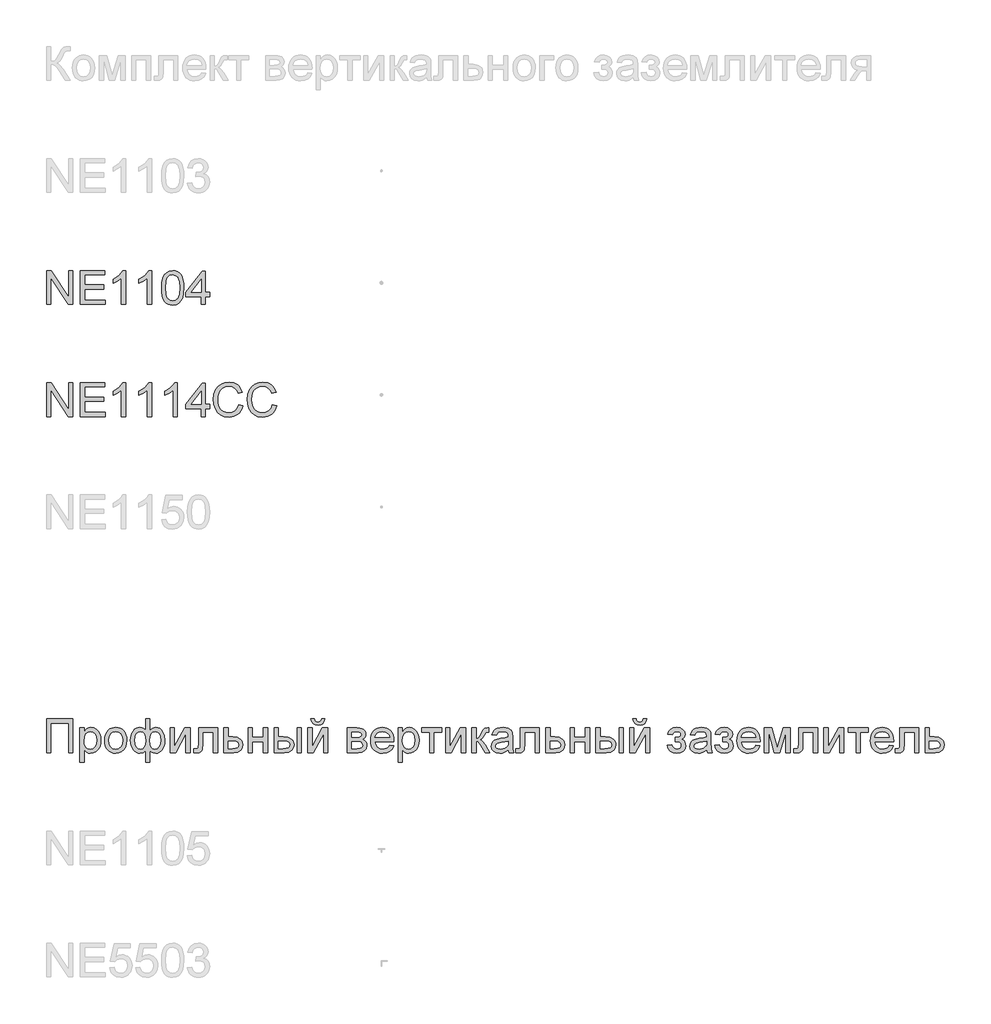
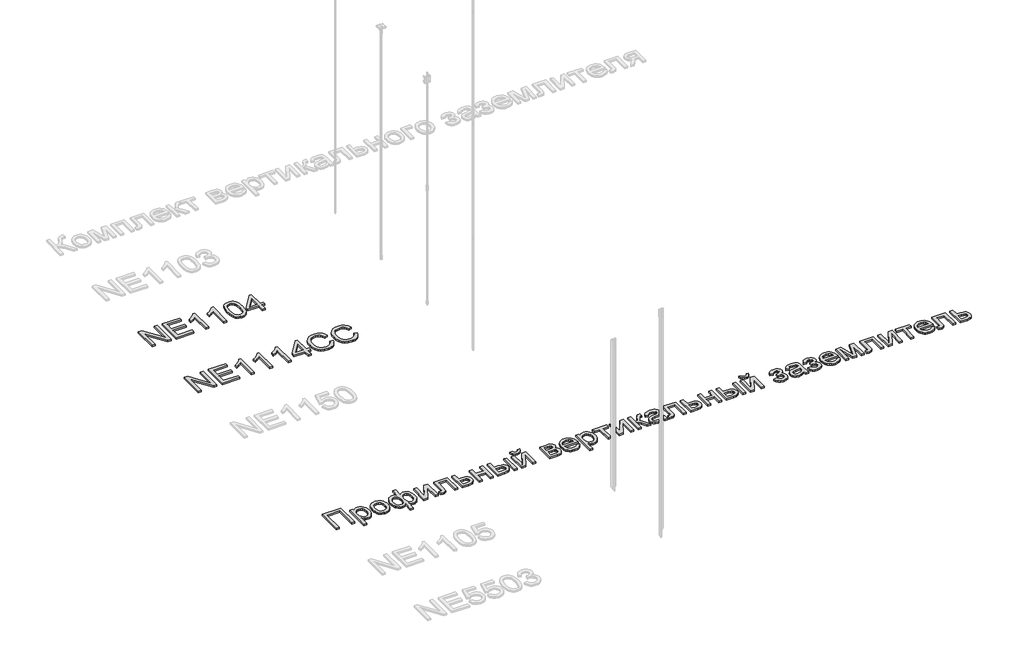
# One storey, part 73 of 124: 3 proxies.
"""IFC4 building model written with IfcOpenShell, lengths in millimetres."""

from ifc_helpers import new_model, si_unit, origin, origin_with_axes, place, context, project, spatial, polyline, outline, extrude, element, save

model = new_model("IFC4")

# Units and contexts
model_context = context("Model", 3, world=origin())
ifc_project = project(units=[si_unit("LENGTHUNIT", "METRE", prefix="MILLI")], contexts=[model_context])

# Site, building, storey
site = spatial("IfcSite", under=ifc_project)
building = spatial("IfcBuilding", under=site)
storey = spatial("IfcBuildingStorey", under=building, Name="Этаж 01", Elevation=0.0)

# Proxies
placement = place(None, origin())
element("IfcBuildingElementProxy", 1, Name="300", ObjectType="300", at=placement, inside=storey, context=model_context, shape_type="SweptSolid", body=[
    extrude(outline(polyline([(32939.8675381, -59074.498362), (32939.8675381, -58773.1294316), (32980.1874048, -58773.1294316), (33137.6408988, -59011.8848464), (33137.6408988, -58773.1294316), (33175.3120151, -58773.1294316), (33175.3120151, -59074.498362), (33134.9921484, -59074.498362), (32977.5386545, -58835.6693707), (32977.5386545, -59074.498362), (32939.8675381, -59074.498362)])), origin_with_axes(), (0.0, 0.0, 1.0), 20.0),
    extrude(outline(polyline([(33241.2364686, -59074.498362), (33241.2364686, -58773.1294316), (33457.8453874, -58773.1294316), (33457.8453874, -58810.8005479), (33278.9075849, -58810.8005479), (33278.9075849, -58900.2694491), (33448.4276083, -58900.2694491), (33448.4276083, -58937.9405654), (33278.9075849, -58937.9405654), (33278.9075849, -59036.8272457), (33462.5542769, -59036.8272457), (33462.5542769, -59074.498362), (33241.2364686, -59074.498362)])), origin_with_axes(), (0.0, 0.0, 1.0), 20.0),
    extrude(outline(polyline([(33646.2009689, -59074.498362), (33608.5298526, -59074.498362), (33608.5298526, -58839.6424963), (33572.8452991, -58865.0631421), (33533.18762, -58884.0826413), (33533.18762, -58848.4716642), (33562.7745294, -58832.3768269), (33588.4067074, -58813.228569), (33608.612626, -58792.8663006), (33621.9207572, -58773.1294316), (33646.2009689, -58773.1294316), (33646.2009689, -59074.498362)])), origin_with_axes(), (0.0, 0.0, 1.0), 20.0),
    extrude(outline(polyline([(33876.9365563, -59074.498362), (33839.26544, -59074.498362), (33839.26544, -58839.6424963), (33803.5808864, -58865.0631421), (33763.9232073, -58884.0826413), (33763.9232073, -58848.4716642), (33793.5101168, -58832.3768269), (33819.1422948, -58813.228569), (33839.3482134, -58792.8663006), (33852.6563446, -58773.1294316), (33876.9365563, -58773.1294316), (33876.9365563, -59074.498362)])), origin_with_axes(), (0.0, 0.0, 1.0), 20.0),
    extrude(outline(polyline([(33966.4054575, -58926.2419179), (33969.1737695, -58878.0033913), (33977.4787055, -58839.5321317), (33991.2374922, -58810.2395278), (34010.3673559, -58789.5369685), (34035.0062525, -58777.2313158), (34065.2921378, -58773.1294316), (34088.5054917, -58775.5574527), (34109.2908244, -58782.8415162), (34126.6732487, -58794.6965135), (34139.6778772, -58810.8373361), (34149.5003265, -58831.1260281), (34157.336213, -58855.4246339), (34162.4681668, -58886.2807362), (34164.1788181, -58926.2419179), (34161.4380972, -58974.2045331), (34153.2159346, -59012.5838222), (34139.5399215, -59041.9040172), (34120.4376489, -59062.68935), (34095.7435699, -59075.0777761), (34065.2921378, -59079.2072515), (34044.5435933, -59077.4138268), (34026.1494935, -59072.0335526), (34010.1098385, -59063.066429), (33996.4246283, -59050.5124559), (33983.2912411, -59027.8187353), (33973.9102502, -58999.5424055), (33968.2816557, -58965.6834664), (33966.4054575, -58926.2419179)]), holes=[polyline([(34004.0765738, -58926.1683415), (34008.4911577, -58985.4249339), (34014.0093877, -59005.6929326), (34021.7349096, -59019.7207329), (34041.4533845, -59036.0822847), (34065.2921378, -59041.5361352), (34089.1308911, -59036.0638906), (34108.849366, -59019.6471565), (34116.5748879, -59005.5963636), (34122.0931178, -58985.3329634), (34126.5077018, -58926.1683415), (34122.2402706, -58868.2453214), (34116.9059817, -58848.0440013), (34109.4379772, -58833.682808), (34089.7562905, -58816.5211129), (34064.8506794, -58810.8005479), (34041.2694435, -58815.8405312), (34022.3235208, -58830.9604812), (34014.3404815, -58846.595466), (34008.6383105, -58867.6751043), (34004.0765738, -58926.1683415)])]), origin_with_axes(), (0.0, 0.0, 1.0), 20.0),
    extrude(outline(polyline([(34319.5721729, -59074.498362), (34319.5721729, -59003.8650189), (34183.0143763, -59003.8650189), (34183.0143763, -58966.1939026), (34328.9899519, -58777.8383211), (34357.2432892, -58777.8383211), (34357.2432892, -58966.1939026), (34394.9144055, -58966.1939026), (34394.9144055, -59003.8650189), (34357.2432892, -59003.8650189), (34357.2432892, -59074.498362), (34319.5721729, -59074.498362)]), holes=[polyline([(34319.5721729, -58966.1939026), (34319.5721729, -58849.7960393), (34229.3675076, -58966.1939026), (34319.5721729, -58966.1939026)])]), origin_with_axes(), (0.0, 0.0, 1.0), 20.0),
])
element("IfcBuildingElementProxy", 2, Name="300", ObjectType="300", at=placement, inside=storey, context=model_context, shape_type="SweptSolid", body=[
    extrude(outline(polyline([(32939.8675381, -60074.498362), (32939.8675381, -59773.1294316), (32980.1874048, -59773.1294316), (33137.6408988, -60011.8848464), (33137.6408988, -59773.1294316), (33175.3120151, -59773.1294316), (33175.3120151, -60074.498362), (33134.9921484, -60074.498362), (32977.5386545, -59835.6693707), (32977.5386545, -60074.498362), (32939.8675381, -60074.498362)])), origin_with_axes(), (0.0, 0.0, 1.0), 20.0),
    extrude(outline(polyline([(33241.2364686, -60074.498362), (33241.2364686, -59773.1294316), (33457.8453874, -59773.1294316), (33457.8453874, -59810.8005479), (33278.9075849, -59810.8005479), (33278.9075849, -59900.2694491), (33448.4276083, -59900.2694491), (33448.4276083, -59937.9405654), (33278.9075849, -59937.9405654), (33278.9075849, -60036.8272457), (33462.5542769, -60036.8272457), (33462.5542769, -60074.498362), (33241.2364686, -60074.498362)])), origin_with_axes(), (0.0, 0.0, 1.0), 20.0),
    extrude(outline(polyline([(33646.2009689, -60074.498362), (33608.5298526, -60074.498362), (33608.5298526, -59839.6424963), (33572.8452991, -59865.0631421), (33533.18762, -59884.0826413), (33533.18762, -59848.4716642), (33562.7745294, -59832.3768269), (33588.4067074, -59813.228569), (33608.612626, -59792.8663006), (33621.9207572, -59773.1294316), (33646.2009689, -59773.1294316), (33646.2009689, -60074.498362)])), origin_with_axes(), (0.0, 0.0, 1.0), 20.0),
    extrude(outline(polyline([(33876.9365563, -60074.498362), (33839.26544, -60074.498362), (33839.26544, -59839.6424963), (33803.5808864, -59865.0631421), (33763.9232073, -59884.0826413), (33763.9232073, -59848.4716642), (33793.5101168, -59832.3768269), (33819.1422948, -59813.228569), (33839.3482134, -59792.8663006), (33852.6563446, -59773.1294316), (33876.9365563, -59773.1294316), (33876.9365563, -60074.498362)])), origin_with_axes(), (0.0, 0.0, 1.0), 20.0),
    extrude(outline(polyline([(34107.6721436, -60074.498362), (34070.0010273, -60074.498362), (34070.0010273, -59839.6424963), (34034.3164738, -59865.0631421), (33994.6587947, -59884.0826413), (33994.6587947, -59848.4716642), (34024.2457042, -59832.3768269), (34049.8778822, -59813.228569), (34070.0838008, -59792.8663006), (34083.391932, -59773.1294316), (34107.6721436, -59773.1294316), (34107.6721436, -60074.498362)])), origin_with_axes(), (0.0, 0.0, 1.0), 20.0),
    extrude(outline(polyline([(34319.5721729, -60074.498362), (34319.5721729, -60003.8650189), (34183.0143763, -60003.8650189), (34183.0143763, -59966.1939026), (34328.9899519, -59777.8383211), (34357.2432892, -59777.8383211), (34357.2432892, -59966.1939026), (34394.9144055, -59966.1939026), (34394.9144055, -60003.8650189), (34357.2432892, -60003.8650189), (34357.2432892, -60074.498362), (34319.5721729, -60074.498362)]), holes=[polyline([(34319.5721729, -59966.1939026), (34319.5721729, -59849.7960393), (34229.3675076, -59966.1939026), (34319.5721729, -59966.1939026)])]), origin_with_axes(), (0.0, 0.0, 1.0), 20.0),
    extrude(outline(polyline([(34653.9033301, -59967.371125), (34691.5744464, -59977.0832097), (34684.1202375, -60000.510395), (34674.1920221, -60020.9807288), (34661.7898003, -60038.494211), (34646.9135722, -60053.0508417), (34629.8990299, -60064.494271), (34611.0818658, -60072.6681491), (34590.46208, -60077.5724759), (34568.0396724, -60079.2072515), (34524.3444884, -60074.2592387), (34489.6440192, -60059.4152002), (34463.046151, -60035.1901708), (34443.6587698, -60002.0991854), (34431.8221666, -59963.1956644), (34427.8766322, -59921.5330284), (34432.3372014, -59877.5895241), (34445.718909, -59839.6424963), (34467.3227792, -59808.8967585), (34496.4498361, -59786.5571244), (34530.9939555, -59772.9546876), (34568.8490128, -59768.420542), (34610.1529638, -59774.2882598), (34628.1217, -59781.6229071), (34644.30161, -59791.8914133), (34658.4259794, -59804.8224654), (34670.2280936, -59820.1447505), (34686.8655568, -59857.9630196), (34649.1944405, -59866.9393403), (34636.1346297, -59839.4677523), (34618.2923529, -59820.6229971), (34595.446881, -59809.724493), (34567.3774848, -59806.0916583), (34535.0222633, -59810.1199662), (34508.4427892, -59822.2048897), (34488.2736588, -59841.0772361), (34475.1494686, -59865.4678123), (34467.9481786, -59893.0405679), (34465.5477485, -59921.459452), (34468.389637, -59956.2610888), (34476.9153022, -59986.353836), (34491.446641, -60010.5880624), (34512.3055501, -60027.8141368), (34537.3123288, -60038.1056356), (34564.2872761, -60041.5361352), (34595.7319896, -60036.8640339), (34621.9343847, -60022.8477299), (34641.717239, -59999.634376), (34653.9033301, -59967.371125)])), origin_with_axes(), (0.0, 0.0, 1.0), 20.0),
    extrude(outline(polyline([(34955.2722605, -59967.371125), (34992.9433768, -59977.0832097), (34985.4891679, -60000.510395), (34975.5609526, -60020.9807288), (34963.1587308, -60038.494211), (34948.2825026, -60053.0508417), (34931.2679603, -60064.494271), (34912.4507963, -60072.6681491), (34891.8310105, -60077.5724759), (34869.4086029, -60079.2072515), (34825.7134189, -60074.2592387), (34791.0129497, -60059.4152002), (34764.4150814, -60035.1901708), (34745.0277003, -60002.0991854), (34733.1910971, -59963.1956644), (34729.2455627, -59921.5330284), (34733.7061319, -59877.5895241), (34747.0878395, -59839.6424963), (34768.6917096, -59808.8967585), (34797.8187666, -59786.5571244), (34832.3628859, -59772.9546876), (34870.2179432, -59768.420542), (34911.5218942, -59774.2882598), (34929.4906305, -59781.6229071), (34945.6705405, -59791.8914133), (34959.7949098, -59804.8224654), (34971.5970241, -59820.1447505), (34988.2344873, -59857.9630196), (34950.563371, -59866.9393403), (34937.5035602, -59839.4677523), (34919.6612834, -59820.6229971), (34896.8158115, -59809.724493), (34868.7464153, -59806.0916583), (34836.3911938, -59810.1199662), (34809.8117196, -59822.2048897), (34789.6425892, -59841.0772361), (34776.5183991, -59865.4678123), (34769.317109, -59893.0405679), (34766.916679, -59921.459452), (34769.7585674, -59956.2610888), (34778.2842326, -59986.353836), (34792.8155715, -60010.5880624), (34813.6744806, -60027.8141368), (34838.6812592, -60038.1056356), (34865.6562065, -60041.5361352), (34897.10092, -60036.8640339), (34923.3033151, -60022.8477299), (34943.0861694, -59999.634376), (34955.2722605, -59967.371125)])), origin_with_axes(), (0.0, 0.0, 1.0), 20.0),
])
element("IfcBuildingElementProxy", 3, Name="300", ObjectType="300", at=placement, inside=storey, context=model_context, shape_type="SweptSolid", body=[
    extrude(outline(polyline([(32939.8675381, -62773.1294316), (33175.3120151, -62773.1294316), (33175.3120151, -63074.498362), (33137.6408988, -63074.498362), (33137.6408988, -62810.8005479), (32977.5386545, -62810.8005479), (32977.5386545, -63074.498362), (32939.8675381, -63074.498362), (32939.8675381, -62773.1294316)])), origin_with_axes(), (0.0, 0.0, 1.0), 20.0),
    extrude(outline(polyline([(33236.5275791, -63159.2583737), (33236.5275791, -62853.1805537), (33274.1986954, -62853.1805537), (33274.1986954, -62890.115906), (33286.485954, -62871.8965502), (33300.2447406, -62858.8827246), (33316.2843956, -62851.0744293), (33335.4142594, -62848.4716642), (33360.8900875, -62852.1136959), (33383.1653423, -62863.0397912), (33401.3019247, -62880.5877623), (33414.3617355, -62904.0954218), (33422.2528043, -62931.8521184), (33424.8831606, -62962.1472007), (33421.9125135, -62994.3644664), (33413.0005721, -63023.1788237), (33398.4324451, -63047.1279416), (33378.493241, -63064.7494891), (33355.2706901, -63075.5928109), (33330.8525226, -63079.2072515), (33313.5344777, -63076.7884274), (33298.0742369, -63069.5319551), (33284.8396821, -63058.5782687), (33274.1986954, -63045.0678024), (33274.1986954, -63159.2583737), (33236.5275791, -63159.2583737)]), holes=[polyline([(33274.1986954, -62965.6052914), (33278.2729885, -62999.3768586), (33290.4958678, -63022.9948827), (33308.5312826, -63036.9008221), (33330.0431822, -63041.5361352), (33351.9045698, -63036.7352752), (33370.3998371, -63022.3326951), (33383.0089925, -62997.8501483), (33387.2120443, -62962.8093883), (33383.11016, -62929.2217621), (33370.8045073, -62905.2726442), (33352.7966836, -62890.9252464), (33331.5882866, -62886.1427805), (33310.2971161, -62891.2287491), (33291.5995137, -62906.4866548), (33278.5489, -62931.4382511), (33274.1986954, -62965.6052914)])]), origin_with_axes(), (0.0, 0.0, 1.0), 20.0),
    extrude(outline(polyline([(33457.8453874, -62963.8394579), (33459.8825339, -62935.1768519), (33465.9939736, -62910.4781745), (33476.1797063, -62889.7434255), (33490.4397321, -62872.972605), (33504.796327, -62862.2534434), (33520.6428439, -62854.5968994), (33537.979283, -62850.002973), (33556.8056441, -62848.4716642), (33577.5886775, -62850.336366), (33596.3805497, -62855.9304716), (33613.1812606, -62865.2539809), (33627.9908101, -62878.306894), (33640.0780329, -62894.6477523), (33648.7117635, -62913.8350977), (33653.8920019, -62935.8689299), (33655.618748, -62960.7492491), (33652.5653274, -62998.8066415), (33643.4050657, -63027.7773486), (33628.4046774, -63049.4731893), (33607.8308768, -63065.7059823), (33583.3943153, -63075.8319342), (33556.8056441, -63079.2072515), (33535.7191079, -63077.3494475), (33516.7524918, -63071.7760352), (33499.9057957, -63062.4870149), (33485.1790196, -63049.4823863), (33473.2205555, -63032.9828788), (33464.6787954, -63013.2092216), (33459.5537394, -62990.1614146), (33457.8453874, -62963.8394579)]), holes=[polyline([(33495.5165037, -62963.7658815), (33499.8759053, -62997.8593454), (33512.9541102, -63022.1487541), (33532.635797, -63036.6892899), (33556.8056441, -63041.5361352), (33580.8651265, -63036.6616988), (33600.5100251, -63022.0383895), (33613.58823, -62997.427084), (33617.9476317, -62962.5886591), (33613.5606389, -62929.4884766), (33600.3996605, -62905.5301616), (33580.7271708, -62890.9896258), (33556.8056441, -62886.1427805), (33532.635797, -62890.9712317), (33512.9541102, -62905.4565852), (33499.8759053, -62929.6908117), (33495.5165037, -62963.7658815)])]), origin_with_axes(), (0.0, 0.0, 1.0), 20.0),
    extrude(outline(polyline([(33825.1387713, -62773.1294316), (33862.8098876, -62773.1294316), (33862.8098876, -62874.444133), (33874.2418206, -62863.0122), (33886.7590055, -62854.9095991), (33900.30626, -62850.0811479), (33914.8284018, -62848.4716642), (33932.2683076, -62850.5180078), (33947.7998256, -62856.6570386), (33961.4229557, -62866.8887565), (33973.137698, -62881.2131617), (33982.5531778, -62898.6415713), (33989.2785205, -62918.1853023), (33994.6587947, -62963.6187287), (33993.2102594, -62988.2737201), (33988.8646533, -63010.4409096), (33981.6219765, -63030.1202971), (33971.482229, -63047.3118826), (33959.1903719, -63061.2661065), (33945.4913661, -63071.2334093), (33930.3852116, -63077.213791), (33913.8719086, -63079.2072515), (33890.8424957, -63075.5284316), (33877.9850199, -63068.6674324), (33862.8098876, -63055.4420747), (33862.8098876, -63159.2583737), (33825.1387713, -63159.2583737), (33825.1387713, -63055.4420747), (33801.0792889, -63073.2475632), (33772.6052224, -63079.2072515), (33756.2896559, -63077.3034622), (33741.0409472, -63071.5920942), (33726.8590963, -63062.0731476), (33713.7441032, -63048.7466223), (33702.7352345, -63031.8746343), (33694.8717569, -63011.7192995), (33690.1536703, -62988.2806179), (33688.5809747, -62961.5585895), (33694.2739486, -62917.394356), (33701.390166, -62898.2231055), (33711.3528702, -62880.9924325), (33723.7206031, -62866.7645964), (33738.051906, -62856.6018563), (33754.3467792, -62850.5042122), (33772.6052224, -62848.4716642), (33787.9550987, -62850.0811479), (33801.7782646, -62854.9095991), (33814.1482967, -62863.0122), (33825.1387713, -62874.444133), (33825.1387713, -62773.1294316)]), holes=[polyline([(33862.5891585, -62964.5016454), (33865.7253525, -63002.6418113), (33875.1339345, -63025.827574), (33889.2698002, -63037.6089949), (33906.5878451, -63041.5361352), (33925.9476351, -63036.707684), (33942.2356104, -63022.2223305), (33953.2996614, -62997.5650398), (33956.9876784, -62962.2207771), (33953.58477, -62928.7067273), (33943.3760446, -62904.9783386), (33927.8330303, -62890.85167), (33908.4272551, -62886.1427805), (33888.4420657, -62891.0448081), (33874.1038649, -62905.7508908), (33865.4678351, -62930.2426346), (33862.5891585, -62964.5016454)]), polyline([(33726.252091, -62960.7492491), (33730.0228815, -62997.7029955), (33741.3352528, -63022.6270007), (33758.2394305, -63036.8088516), (33778.78564, -63041.5361352), (33799.2306818, -63036.8364427), (33813.7712177, -63022.7373653), (33822.4624298, -62999.2389028), (33825.3595005, -62966.3410554), (33822.315277, -62931.2543101), (33813.1826065, -62906.1923492), (33797.9063066, -62891.1551727), (33776.4311952, -62886.1427805), (33756.2712618, -62891.035611), (33740.2316069, -62905.7141026), (33729.74697, -62929.2585503), (33726.252091, -62960.7492491)])]), origin_with_axes(), (0.0, 0.0, 1.0), 20.0),
    extrude(outline(polyline([(34041.7476901, -62853.1805537), (34079.4188064, -62853.1805537), (34079.4188064, -63021.9648131), (34171.9779164, -62853.1805537), (34220.6854926, -62853.1805537), (34220.6854926, -63074.498362), (34183.0143763, -63074.498362), (34183.0143763, -62906.7441722), (34091.0438775, -63074.498362), (34041.7476901, -63074.498362), (34041.7476901, -62853.1805537)])), origin_with_axes(), (0.0, 0.0, 1.0), 20.0),
    extrude(outline(polyline([(34296.0277252, -62853.1805537), (34465.5477485, -62853.1805537), (34465.5477485, -63074.2776328), (34427.8766322, -63074.2776328), (34427.8766322, -62890.85167), (34333.6988415, -62890.85167), (34333.6988415, -62996.4338026), (34331.1604557, -63045.1413788), (34326.4055809, -63056.1686416), (34317.2177281, -63065.7059823), (34303.2750005, -63072.3002671), (34284.2555013, -63074.498362), (34253.6477193, -63072.5853756), (34253.6477193, -63036.8272457), (34270.4967147, -63036.8272457), (34287.5296511, -63034.5095891), (34294.335468, -63027.1519492), (34296.0277252, -62994.3000871), (34296.0277252, -62853.1805537)])), origin_with_axes(), (0.0, 0.0, 1.0), 20.0),
    extrude(outline(polyline([(34522.054423, -62853.1805537), (34559.7255393, -62853.1805537), (34559.7255393, -62933.2316759), (34603.1356147, -62933.2316759), (34640.7699428, -62937.9497624), (34655.917484, -62943.8473707), (34668.6186099, -62952.1040222), (34678.6617884, -62962.4346085), (34685.8354873, -62974.554021), (34691.5744464, -63004.1593245), (34686.6908129, -63031.1158777), (34672.0399124, -63053.8601821), (34660.8080153, -63062.8893858), (34646.6468577, -63069.338817), (34609.5367615, -63074.498362), (34522.054423, -63074.498362), (34522.054423, -62853.1805537)]), holes=[polyline([(34559.7255393, -63036.8272457), (34594.8950581, -63036.8272457), (34622.182705, -63034.84988), (34640.3284845, -63028.9177828), (34650.5096187, -63018.7918309), (34653.9033301, -63004.2329009), (34651.3925355, -62991.9272482), (34643.8601516, -62981.0563352), (34627.7193291, -62973.4411779), (34599.3832184, -62970.9027922), (34559.7255393, -62970.9027922), (34559.7255393, -63036.8272457)])]), origin_with_axes(), (0.0, 0.0, 1.0), 20.0),
    extrude(outline(polyline([(34738.6633418, -62853.1805537), (34776.3344581, -62853.1805537), (34776.3344581, -62937.9405654), (34875.2211384, -62937.9405654), (34875.2211384, -62853.1805537), (34912.8922547, -62853.1805537), (34912.8922547, -63074.498362), (34875.2211384, -63074.498362), (34875.2211384, -62975.6116817), (34776.3344581, -62975.6116817), (34776.3344581, -63074.498362), (34738.6633418, -63074.498362), (34738.6633418, -62853.1805537)])), origin_with_axes(), (0.0, 0.0, 1.0), 20.0),
    extrude(outline(polyline([(35176.5900688, -62853.1805537), (35214.2611851, -62853.1805537), (35214.2611851, -63074.498362), (35176.5900688, -63074.498362), (35176.5900688, -62853.1805537)])), origin_with_axes(), (0.0, 0.0, 1.0), 20.0),
    extrude(outline(polyline([(34969.3989291, -62853.1805537), (35007.0700454, -62853.1805537), (35007.0700454, -62933.2316759), (35053.643906, -62933.2316759), (35093.8993934, -62937.9497624), (35110.1160916, -62943.8473707), (35123.7254261, -62952.1040222), (35134.4928723, -62962.4346085), (35142.1839052, -62974.554021), (35146.798525, -62988.4622596), (35148.3367316, -63004.1593245), (35143.1771866, -63031.1158777), (35127.6985517, -63053.8601821), (35115.8366566, -63062.8893858), (35100.8891513, -63069.338817), (35061.7373099, -63074.498362), (34969.3989291, -63074.498362), (34969.3989291, -62853.1805537)]), holes=[polyline([(35007.0700454, -63036.8272457), (35045.7712313, -63036.8272457), (35075.772008, -63034.84988), (35095.7296063, -63028.9177828), (35106.931613, -63018.7918309), (35110.6656153, -63004.2329009), (35107.8973033, -62991.9272482), (35099.5923672, -62981.0563352), (35081.8328639, -62973.4411779), (35050.7008501, -62970.9027922), (35007.0700454, -62970.9027922), (35007.0700454, -63036.8272457)])]), origin_with_axes(), (0.0, 0.0, 1.0), 20.0),
    extrude(outline(polyline([(35270.7678596, -62853.1805537), (35308.4389759, -62853.1805537), (35308.4389759, -63021.9648131), (35400.9980859, -62853.1805537), (35449.705662, -62853.1805537), (35449.705662, -63074.498362), (35412.0345457, -63074.498362), (35412.0345457, -62906.7441722), (35320.0640469, -63074.498362), (35270.7678596, -63074.498362), (35270.7678596, -62853.1805537)])), origin_with_axes(), (0.0, 0.0, 1.0), 20.0),
    extrude(outline(polyline([(35393.1989876, -62773.1294316), (35421.4523248, -62773.1294316), (35415.3730748, -62797.2532934), (35403.1685897, -62815.0311908), (35385.3906922, -62825.9848772), (35362.5912056, -62829.636106), (35337.8511414, -62826.0124684), (35318.6660954, -62815.1415554), (35305.5511022, -62797.3912491), (35299.0211968, -62773.1294316), (35327.274534, -62773.1294316), (35331.2476596, -62785.5362518), (35337.8695355, -62794.3562227), (35347.17695, -62799.6261323), (35359.2066912, -62801.3827688), (35372.7815369, -62799.6813146), (35382.6039861, -62794.5769519), (35389.225862, -62785.8121633), (35393.1989876, -62773.1294316)])), origin_with_axes(), (0.0, 0.0, 1.0), 20.0),
    extrude(outline(polyline([(35623.934575, -62853.1805537), (35706.9287531, -62853.1805537), (35733.6093948, -62854.4405495), (35752.4357559, -62858.220537), (35766.286513, -62865.3574477), (35778.0403427, -62876.6882132), (35786.0693673, -62891.4494783), (35788.7457088, -62908.8778878), (35787.127028, -62922.9217829), (35782.2709857, -62935.0342976), (35774.1591877, -62945.2706141), (35762.7732399, -62953.6859148), (35776.7159676, -62961.5126042), (35788.0835212, -62974.1033655), (35795.6434962, -62990.4649173), (35798.1634879, -63009.6039781), (35791.7807353, -63038.3171678), (35776.605603, -63058.5322834), (35752.5829087, -63070.5068424), (35719.6574701, -63074.498362), (35623.934575, -63074.498362), (35623.934575, -62853.1805537)]), holes=[polyline([(35661.6056913, -62937.9405654), (35698.8353492, -62937.9405654), (35729.5534958, -62936.027579), (35744.4895048, -62928.3756335), (35749.4283206, -62922.0480632), (35751.0745925, -62914.5432705), (35748.1867188, -62903.3044755), (35739.5230978, -62896.0755943), (35723.8697189, -62892.1576511), (35700.0125716, -62890.85167), (35661.6056913, -62890.85167), (35661.6056913, -62937.9405654)]), polyline([(35661.6056913, -63036.8272457), (35707.8116699, -63036.8272457), (35732.9931924, -63035.1257915), (35748.7937241, -63030.0214288), (35757.2734041, -63020.7416055), (35760.4923716, -63006.5137693), (35758.8828878, -62997.0867932), (35754.0544367, -62988.3771869), (35746.6416145, -62981.562173), (35737.2790177, -62977.8189737), (35704.1328499, -62975.6116817), (35661.6056913, -62975.6116817), (35661.6056913, -63036.8272457)])]), origin_with_axes(), (0.0, 0.0, 1.0), 20.0),
    extrude(outline(polyline([(36000.2042796, -63008.5739085), (36037.1396319, -63013.282798), (36023.8315008, -63041.1130709), (36002.5955126, -63061.9167978), (35973.909914, -63074.8846381), (35938.2529516, -63079.2072515), (35914.8786494, -63077.3425497), (35894.0519299, -63071.7484441), (35875.7727933, -63062.4249348), (35860.0412395, -63049.3720217), (35847.3906974, -63032.9529884), (35838.3545958, -63013.5311184), (35832.9329349, -62991.1064115), (35831.1257146, -62965.6788678), (35832.951329, -62939.3891007), (35838.4281722, -62916.2171336), (35847.5562443, -62896.1629663), (35860.3355451, -62879.226599), (35876.0257122, -62865.771315), (35893.886383, -62856.1603979), (35913.9175577, -62850.3938476), (35936.1192361, -62848.4716642), (35957.6058438, -62850.3892491), (35977.036911, -62856.1420038), (35994.4124375, -62865.7299283), (36009.7324233, -62879.1530226), (36022.2381119, -62896.0526017), (36031.1707466, -62916.0699808), (36036.5303274, -62939.2051598), (36038.3168543, -62965.4581386), (36038.0961251, -62975.6116817), (35868.7968309, -62975.6116817), (35875.3175393, -63003.8098366), (35890.4650805, -63024.5399871), (35912.326468, -63037.2870982), (35938.9887156, -63041.5361352), (35959.0382844, -63039.5679666), (35975.9240679, -63033.6634605), (35989.6460664, -63023.4547352), (36000.2042796, -63008.5739085)]), holes=[polyline([(35868.7968309, -62937.9405654), (36000.645738, -62937.9405654), (35995.5505724, -62918.0381495), (35985.5625762, -62903.8011162), (35963.6000211, -62890.5573644), (35935.9720833, -62886.1427805), (35910.5790286, -62889.6652506), (35889.5821637, -62900.2326609), (35874.9864455, -62916.7045772), (35868.7968309, -62937.9405654)])]), origin_with_axes(), (0.0, 0.0, 1.0), 20.0),
    extrude(outline(polyline([(36075.9879706, -63159.2583737), (36075.9879706, -62853.1805537), (36113.6590869, -62853.1805537), (36113.6590869, -62890.115906), (36125.9463456, -62871.8965502), (36139.7051322, -62858.8827246), (36155.7447872, -62851.0744293), (36174.8746509, -62848.4716642), (36200.3504791, -62852.1136959), (36222.6257339, -62863.0397912), (36240.7623163, -62880.5877623), (36253.8221271, -62904.0954218), (36261.7131959, -62931.8521184), (36264.3435522, -62962.1472007), (36261.3729051, -62994.3644664), (36252.4609637, -63023.1788237), (36237.8928367, -63047.1279416), (36217.9536326, -63064.7494891), (36194.7310816, -63075.5928109), (36170.3129142, -63079.2072515), (36152.9948693, -63076.7884274), (36137.5346284, -63069.5319551), (36124.3000736, -63058.5782687), (36113.6590869, -63045.0678024), (36113.6590869, -63159.2583737), (36075.9879706, -63159.2583737)]), holes=[polyline([(36113.6590869, -62965.6052914), (36117.73338, -62999.3768586), (36129.9562593, -63022.9948827), (36147.9916741, -63036.9008221), (36169.5035738, -63041.5361352), (36191.3649614, -63036.7352752), (36209.8602287, -63022.3326951), (36222.4693841, -62997.8501483), (36226.6724359, -62962.8093883), (36222.5705516, -62929.2217621), (36210.2648989, -62905.2726442), (36192.2570752, -62890.9252464), (36171.0486782, -62886.1427805), (36149.7575077, -62891.2287491), (36131.0599053, -62906.4866548), (36118.0092915, -62931.4382511), (36113.6590869, -62965.6052914)])]), origin_with_axes(), (0.0, 0.0, 1.0), 20.0),
    extrude(outline(polyline([(36287.8879999, -62853.1805537), (36466.8258023, -62853.1805537), (36466.8258023, -62890.85167), (36396.1924592, -62890.85167), (36396.1924592, -63074.498362), (36358.5213429, -63074.498362), (36358.5213429, -62890.85167), (36287.8879999, -62890.85167), (36287.8879999, -62853.1805537)])), origin_with_axes(), (0.0, 0.0, 1.0), 20.0),
    extrude(outline(polyline([(36499.7880291, -62853.1805537), (36537.4591454, -62853.1805537), (36537.4591454, -63021.9648131), (36630.0182554, -62853.1805537), (36678.7258315, -62853.1805537), (36678.7258315, -63074.498362), (36641.0547152, -63074.498362), (36641.0547152, -62906.7441722), (36549.0842164, -63074.498362), (36499.7880291, -63074.498362), (36499.7880291, -62853.1805537)])), origin_with_axes(), (0.0, 0.0, 1.0), 20.0),
    extrude(outline(polyline([(36735.232506, -62853.1805537), (36772.9036223, -62853.1805537), (36772.9036223, -62947.3583445), (36788.2259074, -62945.6660873), (36798.1403272, -62940.5893158), (36806.9143127, -62927.3455639), (36818.8152953, -62901.1523659), (36835.9953845, -62867.1232813), (36851.1521227, -62856.0500333), (36878.7064841, -62853.1805537), (36885.9169712, -62853.1805537), (36885.9169712, -62891.0723992), (36875.7634281, -62890.85167), (36857.3693284, -62894.8247956), (36844.4198822, -62919.620042), (36829.2263558, -62946.4386395), (36807.9259882, -62959.5720267), (36819.863759, -62964.874126), (36831.6911651, -62974.2321242), (36855.0148836, -63005.1158177), (36895.3347503, -63074.498362), (36852.5132861, -63074.498362), (36813.0027598, -63006.5873457), (36793.137132, -62977.8557619), (36783.8481117, -62972.6410346), (36772.9036223, -62970.9027922), (36772.9036223, -63074.498362), (36735.232506, -63074.498362), (36735.232506, -62853.1805537)])), origin_with_axes(), (0.0, 0.0, 1.0), 20.0),
    extrude(outline(polyline([(37060.1458841, -63046.2450248), (37042.1472575, -63061.6776745), (37023.615202, -63071.7760352), (37004.1266533, -63077.3494475), (36983.2585471, -63079.2072515), (36951.7770454, -63074.7374853), (36928.5544945, -63061.3281866), (36914.2346878, -63040.9659181), (36909.4614189, -63015.6372428), (36911.2640407, -63000.0206521), (36916.671906, -62985.8388012), (36925.0136303, -62973.6986953), (36935.6178288, -62964.2073398), (36961.9949678, -62951.8465048), (36994.5893126, -62946.1811221), (37033.1065575, -62940.2214338), (37059.9251549, -62933.2316759), (37060.1458841, -62924.8439664), (37057.5523161, -62908.0317592), (37049.7716119, -62897.0320875), (37032.3707935, -62888.8651072), (37008.12737, -62886.1427805), (36985.6865683, -62887.9545993), (36970.0147953, -62893.3900558), (36959.3278234, -62903.4424313), (36951.8414247, -62919.1050072), (36914.1703084, -62914.3961177), (36920.7094109, -62893.794726), (36930.4674808, -62877.6079182), (36944.3550261, -62865.228689), (36963.2825548, -62856.0500333), (36986.4315293, -62850.3662564), (37012.9834123, -62848.4716642), (37038.4500435, -62850.1455272), (37058.6375679, -62855.1671165), (37073.8586855, -62862.7178944), (37084.4260958, -62871.9793237), (37091.4342478, -62883.4296508), (37095.9775905, -62897.5471223), (37097.8170004, -62930.5093491), (37097.8170004, -62977.3775153), (37099.7299868, -63042.8237222), (37107.2347795, -63074.498362), (37069.5636632, -63074.498362), (37060.1458841, -63046.2450248)]), holes=[polyline([(37060.1458841, -62970.9027922), (36999.3717785, -62982.4542868), (36966.9613748, -62988.5611279), (36952.2828831, -62998.4939418), (36947.1325352, -63012.9884924), (36949.9376354, -63024.1904992), (36958.3529361, -63033.3691549), (36972.1944961, -63039.4943902), (36991.2783746, -63041.5361352), (37011.5118844, -63039.282858), (37029.3909493, -63032.5230264), (37043.8854999, -63022.5626213), (37053.9654666, -63010.707624), (37058.4352329, -62998.4939418), (37059.9251549, -62981.57137), (37060.1458841, -62970.9027922)])]), origin_with_axes(), (0.0, 0.0, 1.0), 20.0),
    extrude(outline(polyline([(37168.4503435, -62853.1805537), (37337.9703669, -62853.1805537), (37337.9703669, -63074.2776328), (37300.2992506, -63074.2776328), (37300.2992506, -62890.85167), (37206.1214598, -62890.85167), (37206.1214598, -62996.4338026), (37203.583074, -63045.1413788), (37198.8281993, -63056.1686416), (37189.6403464, -63065.7059823), (37175.6976188, -63072.3002671), (37156.6781197, -63074.498362), (37126.0703377, -63072.5853756), (37126.0703377, -63036.8272457), (37142.919333, -63036.8272457), (37159.9522694, -63034.5095891), (37166.7580863, -63027.1519492), (37168.4503435, -62994.3000871), (37168.4503435, -62853.1805537)])), origin_with_axes(), (0.0, 0.0, 1.0), 20.0),
    extrude(outline(polyline([(37394.4770413, -62853.1805537), (37432.1481577, -62853.1805537), (37432.1481577, -62933.2316759), (37475.5582331, -62933.2316759), (37513.1925612, -62937.9497624), (37528.3401023, -62943.8473707), (37541.0412282, -62952.1040222), (37551.0844067, -62962.4346085), (37558.2581056, -62974.554021), (37563.9970647, -63004.1593245), (37559.1134312, -63031.1158777), (37544.4625308, -63053.8601821), (37533.2306336, -63062.8893858), (37519.0694761, -63069.338817), (37481.9593798, -63074.498362), (37394.4770413, -63074.498362), (37394.4770413, -62853.1805537)]), holes=[polyline([(37432.1481577, -63036.8272457), (37467.3176764, -63036.8272457), (37494.6053234, -63034.84988), (37512.7511028, -63028.9177828), (37522.932237, -63018.7918309), (37526.3259484, -63004.2329009), (37523.8151538, -62991.9272482), (37516.2827699, -62981.0563352), (37500.1419474, -62973.4411779), (37471.8058367, -62970.9027922), (37432.1481577, -62970.9027922), (37432.1481577, -63036.8272457)])]), origin_with_axes(), (0.0, 0.0, 1.0), 20.0),
    extrude(outline(polyline([(37611.0859601, -62853.1805537), (37648.7570764, -62853.1805537), (37648.7570764, -62937.9405654), (37747.6437567, -62937.9405654), (37747.6437567, -62853.1805537), (37785.314873, -62853.1805537), (37785.314873, -63074.498362), (37747.6437567, -63074.498362), (37747.6437567, -62975.6116817), (37648.7570764, -62975.6116817), (37648.7570764, -63074.498362), (37611.0859601, -63074.498362), (37611.0859601, -62853.1805537)])), origin_with_axes(), (0.0, 0.0, 1.0), 20.0),
    extrude(outline(polyline([(38049.0126872, -62853.1805537), (38086.6838035, -62853.1805537), (38086.6838035, -63074.498362), (38049.0126872, -63074.498362), (38049.0126872, -62853.1805537)])), origin_with_axes(), (0.0, 0.0, 1.0), 20.0),
    extrude(outline(polyline([(37841.8215475, -62853.1805537), (37879.4926638, -62853.1805537), (37879.4926638, -62933.2316759), (37926.0665244, -62933.2316759), (37966.3220117, -62937.9497624), (37982.5387099, -62943.8473707), (37996.1480445, -62952.1040222), (38006.9154906, -62962.4346085), (38014.6065236, -62974.554021), (38019.2211433, -62988.4622596), (38020.7593499, -63004.1593245), (38015.599805, -63031.1158777), (38000.12117, -63053.8601821), (37988.2592749, -63062.8893858), (37973.3117696, -63069.338817), (37934.1599283, -63074.498362), (37841.8215475, -63074.498362), (37841.8215475, -62853.1805537)]), holes=[polyline([(37879.4926638, -63036.8272457), (37918.1938497, -63036.8272457), (37948.1946264, -63034.84988), (37968.1522246, -63028.9177828), (37979.3542314, -63018.7918309), (37983.0882336, -63004.2329009), (37980.3199216, -62991.9272482), (37972.0149856, -62981.0563352), (37954.2554823, -62973.4411779), (37923.1234684, -62970.9027922), (37879.4926638, -62970.9027922), (37879.4926638, -63036.8272457)])]), origin_with_axes(), (0.0, 0.0, 1.0), 20.0),
    extrude(outline(polyline([(38143.1904779, -62853.1805537), (38180.8615942, -62853.1805537), (38180.8615942, -63021.9648131), (38273.4207042, -62853.1805537), (38322.1282804, -62853.1805537), (38322.1282804, -63074.498362), (38284.4571641, -63074.498362), (38284.4571641, -62906.7441722), (38192.4866653, -63074.498362), (38143.1904779, -63074.498362), (38143.1904779, -62853.1805537)])), origin_with_axes(), (0.0, 0.0, 1.0), 20.0),
    extrude(outline(polyline([(38265.6216059, -62773.1294316), (38293.8749432, -62773.1294316), (38287.7956932, -62797.2532934), (38275.591208, -62815.0311908), (38257.8133106, -62825.9848772), (38235.0138239, -62829.636106), (38210.2737598, -62826.0124684), (38191.0887137, -62815.1415554), (38177.9737206, -62797.3912491), (38171.4438152, -62773.1294316), (38199.6971524, -62773.1294316), (38203.6702779, -62785.5362518), (38210.2921538, -62794.3562227), (38219.5995683, -62799.6261323), (38231.6293096, -62801.3827688), (38245.2041552, -62799.6813146), (38255.0266045, -62794.5769519), (38261.6484804, -62785.8121633), (38265.6216059, -62773.1294316)])), origin_with_axes(), (0.0, 0.0, 1.0), 20.0),
    extrude(outline(polyline([(38548.1549782, -62975.6116817), (38548.1549782, -62937.9405654), (38577.8798434, -62936.4690374), (38592.8894288, -62928.6331509), (38598.1869296, -62921.2847081), (38599.9527631, -62912.2624021), (38597.5891213, -62901.547839), (38590.4981959, -62893.242903), (38579.6732682, -62887.9178111), (38566.1076196, -62886.1427805), (38552.3948182, -62887.908614), (38540.9077029, -62893.2061148), (38531.6462737, -62902.0352827), (38524.6105305, -62914.3961177), (38482.2305247, -62909.6872282), (38493.4693196, -62882.9054189), (38510.5574383, -62863.7755552), (38533.4948807, -62852.2976369), (38562.2816468, -62848.4716642), (38593.7723456, -62853.1345685), (38617.6110989, -62867.1232813), (38632.6206843, -62887.5867173), (38637.6238794, -62911.6737909), (38635.8442503, -62924.034626), (38630.5053628, -62935.0710858), (38621.6072171, -62944.7831705), (38609.149813, -62953.17088), (38623.6903489, -62963.6371228), (38634.0554241, -62976.6417513), (38640.2634328, -62992.2215538), (38642.332769, -63010.4133184), (38637.0812535, -63038.1424238), (38621.3267071, -63060.114176), (38596.1359874, -63074.4339827), (38562.5759524, -63079.2072515), (38529.7516814, -63074.7926676), (38504.6345382, -63061.5489158), (38487.2245228, -63039.4759961), (38477.5216351, -63008.5739085), (38519.901641, -63003.8650189), (38526.2476054, -63019.7943093), (38536.8977892, -63031.6768978), (38550.6197876, -63039.0713259), (38566.181196, -63041.5361352), (38581.3379342, -63039.1724934), (38593.6987692, -63032.081568), (38601.9209318, -63021.3118225), (38604.6616527, -63007.9117209), (38602.9601985, -62997.2983253), (38597.8558358, -62988.1196695), (38583.3612852, -62977.5246681), (38555.5126181, -62975.3909525), (38548.1549782, -62975.6116817)])), origin_with_axes(), (0.0, 0.0, 1.0), 20.0),
    extrude(outline(polyline([(38830.6883505, -63046.2450248), (38812.6897239, -63061.6776745), (38794.1576684, -63071.7760352), (38774.6691197, -63077.3494475), (38753.8010135, -63079.2072515), (38722.3195118, -63074.7374853), (38699.0969608, -63061.3281866), (38684.7771542, -63040.9659181), (38680.0038853, -63015.6372428), (38681.8065071, -63000.0206521), (38687.2143724, -62985.8388012), (38695.5560966, -62973.6986953), (38706.1602951, -62964.2073398), (38732.5374342, -62951.8465048), (38765.131779, -62946.1811221), (38803.6490239, -62940.2214338), (38830.4676213, -62933.2316759), (38830.6883505, -62924.8439664), (38828.0947825, -62908.0317592), (38820.3140783, -62897.0320875), (38802.9132599, -62888.8651072), (38778.6698364, -62886.1427805), (38756.2290347, -62887.9545993), (38740.5572617, -62893.3900558), (38729.8702897, -62903.4424313), (38722.3838911, -62919.1050072), (38684.7127748, -62914.3961177), (38691.2518773, -62893.794726), (38701.0099472, -62877.6079182), (38714.8974925, -62865.228689), (38733.8250212, -62856.0500333), (38756.9739957, -62850.3662564), (38783.5258787, -62848.4716642), (38808.9925099, -62850.1455272), (38829.1800343, -62855.1671165), (38844.4011519, -62862.7178944), (38854.9685622, -62871.9793237), (38861.9767142, -62883.4296508), (38866.5200568, -62897.5471223), (38868.3594668, -62930.5093491), (38868.3594668, -62977.3775153), (38870.2724532, -63042.8237222), (38877.7772459, -63074.498362), (38840.1061296, -63074.498362), (38830.6883505, -63046.2450248)]), holes=[polyline([(38830.6883505, -62970.9027922), (38769.9142449, -62982.4542868), (38737.5038411, -62988.5611279), (38722.8253495, -62998.4939418), (38717.6750016, -63012.9884924), (38720.4801018, -63024.1904992), (38728.8954025, -63033.3691549), (38742.7369625, -63039.4943902), (38761.820841, -63041.5361352), (38782.0543508, -63039.282858), (38799.9334157, -63032.5230264), (38814.4279663, -63022.5626213), (38824.507933, -63010.707624), (38828.9776992, -62998.4939418), (38830.4676213, -62981.57137), (38830.6883505, -62970.9027922)])]), origin_with_axes(), (0.0, 0.0, 1.0), 20.0),
    extrude(outline(polyline([(38971.9550367, -62975.6116817), (38971.9550367, -62937.9405654), (39001.6799019, -62936.4690374), (39016.6894873, -62928.6331509), (39021.986988, -62921.2847081), (39023.7528216, -62912.2624021), (39021.3891798, -62901.547839), (39014.2982543, -62893.242903), (39003.4733266, -62887.9178111), (38989.907678, -62886.1427805), (38976.1948767, -62887.908614), (38964.7077614, -62893.2061148), (38955.4463321, -62902.0352827), (38948.410589, -62914.3961177), (38906.0305831, -62909.6872282), (38917.2693781, -62882.9054189), (38934.3574968, -62863.7755552), (38957.2949392, -62852.2976369), (38986.0817053, -62848.4716642), (39017.5724041, -62853.1345685), (39041.4111574, -62867.1232813), (39056.4207428, -62887.5867173), (39061.4239379, -62911.6737909), (39059.6443087, -62924.034626), (39054.3054213, -62935.0710858), (39045.4072755, -62944.7831705), (39032.9498715, -62953.17088), (39047.4904073, -62963.6371228), (39057.8554825, -62976.6417513), (39064.0634912, -62992.2215538), (39066.1328274, -63010.4133184), (39060.8813119, -63038.1424238), (39045.1267655, -63060.114176), (39019.9360459, -63074.4339827), (38986.3760109, -63079.2072515), (38953.5517399, -63074.7926676), (38928.4345966, -63061.5489158), (38911.0245812, -63039.4759961), (38901.3216936, -63008.5739085), (38943.7016994, -63003.8650189), (38950.0476639, -63019.7943093), (38960.6978476, -63031.6768978), (38974.419846, -63039.0713259), (38989.9812544, -63041.5361352), (39005.1379926, -63039.1724934), (39017.4988277, -63032.081568), (39025.7209903, -63021.3118225), (39028.4617111, -63007.9117209), (39026.7602569, -62997.2983253), (39021.6558942, -62988.1196695), (39007.1613436, -62977.5246681), (38979.3126766, -62975.3909525), (38971.9550367, -62975.6116817)])), origin_with_axes(), (0.0, 0.0, 1.0), 20.0),
    extrude(outline(polyline([(39268.1736192, -63008.5739085), (39305.1089715, -63013.282798), (39291.8008403, -63041.1130709), (39270.5648521, -63061.9167978), (39241.8792536, -63074.8846381), (39206.2222912, -63079.2072515), (39182.8479889, -63077.3425497), (39162.0212695, -63071.7484441), (39143.7421328, -63062.4249348), (39128.010579, -63049.3720217), (39115.3600369, -63032.9529884), (39106.3239354, -63013.5311184), (39100.9022745, -62991.1064115), (39099.0950542, -62965.6788678), (39100.9206686, -62939.3891007), (39106.3975118, -62916.2171336), (39115.5255838, -62896.1629663), (39128.3048846, -62879.226599), (39143.9950517, -62865.771315), (39161.8557226, -62856.1603979), (39181.8868972, -62850.3938476), (39204.0885756, -62848.4716642), (39225.5751834, -62850.3892491), (39245.0062505, -62856.1420038), (39262.381777, -62865.7299283), (39277.7017629, -62879.1530226), (39290.2074514, -62896.0526017), (39299.1400861, -62916.0699808), (39304.4996669, -62939.2051598), (39306.2861939, -62965.4581386), (39306.0654647, -62975.6116817), (39136.7661705, -62975.6116817), (39143.2868789, -63003.8098366), (39158.43442, -63024.5399871), (39180.2958076, -63037.2870982), (39206.9580552, -63041.5361352), (39227.0076239, -63039.5679666), (39243.8934075, -63033.6634605), (39257.6154059, -63023.4547352), (39268.1736192, -63008.5739085)]), holes=[polyline([(39136.7661705, -62937.9405654), (39268.6150776, -62937.9405654), (39263.5199119, -62918.0381495), (39253.5319158, -62903.8011162), (39231.5693607, -62890.5573644), (39203.9414228, -62886.1427805), (39178.5483681, -62889.6652506), (39157.5515032, -62900.2326609), (39142.9557851, -62916.7045772), (39136.7661705, -62937.9405654)])]), origin_with_axes(), (0.0, 0.0, 1.0), 20.0),
    extrude(outline(polyline([(39343.9573102, -62853.1805537), (39408.7781177, -62853.1805537), (39458.7364927, -63030.3525226), (39512.5944168, -62853.1805537), (39574.6928976, -62853.1805537), (39574.6928976, -63074.498362), (39537.0217813, -63074.498362), (39537.0217813, -62896.2963235), (39482.8695516, -63074.498362), (39433.4262114, -63074.498362), (39381.6284265, -62887.7614613), (39381.6284265, -63074.498362), (39343.9573102, -63074.498362), (39343.9573102, -62853.1805537)])), origin_with_axes(), (0.0, 0.0, 1.0), 20.0),
    extrude(outline(polyline([(39650.0351302, -62853.1805537), (39819.5551536, -62853.1805537), (39819.5551536, -63074.2776328), (39781.8840372, -63074.2776328), (39781.8840372, -62890.85167), (39687.7062465, -62890.85167), (39687.7062465, -62996.4338026), (39685.1678607, -63045.1413788), (39680.4129859, -63056.1686416), (39671.2251331, -63065.7059823), (39657.2824055, -63072.3002671), (39638.2629063, -63074.498362), (39607.6551243, -63072.5853756), (39607.6551243, -63036.8272457), (39624.5041197, -63036.8272457), (39641.5370561, -63034.5095891), (39648.342873, -63027.1519492), (39650.0351302, -62994.3000871), (39650.0351302, -62853.1805537)])), origin_with_axes(), (0.0, 0.0, 1.0), 20.0),
    extrude(outline(polyline([(39876.061828, -62853.1805537), (39913.7329443, -62853.1805537), (39913.7329443, -63021.9648131), (40006.2920543, -62853.1805537), (40054.9996305, -62853.1805537), (40054.9996305, -63074.498362), (40017.3285142, -63074.498362), (40017.3285142, -62906.7441722), (39925.3580154, -63074.498362), (39876.061828, -63074.498362), (39876.061828, -62853.1805537)])), origin_with_axes(), (0.0, 0.0, 1.0), 20.0),
    extrude(outline(polyline([(40092.6707468, -62853.1805537), (40271.6085492, -62853.1805537), (40271.6085492, -62890.85167), (40200.9752062, -62890.85167), (40200.9752062, -63074.498362), (40163.3040898, -63074.498362), (40163.3040898, -62890.85167), (40092.6707468, -62890.85167), (40092.6707468, -62853.1805537)])), origin_with_axes(), (0.0, 0.0, 1.0), 20.0),
    extrude(outline(polyline([(40459.5226724, -63008.5739085), (40496.4580247, -63013.282798), (40483.1498935, -63041.1130709), (40461.9139053, -63061.9167978), (40433.2283068, -63074.8846381), (40397.5713444, -63079.2072515), (40374.1970421, -63077.3425497), (40353.3703227, -63071.7484441), (40335.091186, -63062.4249348), (40319.3596322, -63049.3720217), (40306.7090901, -63032.9529884), (40297.6729886, -63013.5311184), (40292.2513277, -62991.1064115), (40290.4441074, -62965.6788678), (40292.2697218, -62939.3891007), (40297.746565, -62916.2171336), (40306.874637, -62896.1629663), (40319.6539378, -62879.226599), (40335.3441049, -62865.771315), (40353.2047758, -62856.1603979), (40373.2359504, -62850.3938476), (40395.4376288, -62848.4716642), (40416.9242366, -62850.3892491), (40436.3553037, -62856.1420038), (40453.7308302, -62865.7299283), (40469.050816, -62879.1530226), (40481.5565046, -62896.0526017), (40490.4891393, -62916.0699808), (40495.8487201, -62939.2051598), (40497.6352471, -62965.4581386), (40497.4145179, -62975.6116817), (40328.1152237, -62975.6116817), (40334.635932, -63003.8098366), (40349.7834732, -63024.5399871), (40371.6448608, -63037.2870982), (40398.3071084, -63041.5361352), (40418.3566771, -63039.5679666), (40435.2424607, -63033.6634605), (40448.9644591, -63023.4547352), (40459.5226724, -63008.5739085)]), holes=[polyline([(40328.1152237, -62937.9405654), (40459.9641308, -62937.9405654), (40454.8689651, -62918.0381495), (40444.880969, -62903.8011162), (40422.9184138, -62890.5573644), (40395.290476, -62886.1427805), (40369.8974213, -62889.6652506), (40348.9005564, -62900.2326609), (40334.3048383, -62916.7045772), (40328.1152237, -62937.9405654)])]), origin_with_axes(), (0.0, 0.0, 1.0), 20.0),
    extrude(outline(polyline([(40554.1419215, -62853.1805537), (40723.6619449, -62853.1805537), (40723.6619449, -63074.2776328), (40685.9908286, -63074.2776328), (40685.9908286, -62890.85167), (40591.8130378, -62890.85167), (40591.8130378, -62996.4338026), (40589.2746521, -63045.1413788), (40584.5197773, -63056.1686416), (40575.3319244, -63065.7059823), (40561.3891968, -63072.3002671), (40542.3696977, -63074.498362), (40511.7619157, -63072.5853756), (40511.7619157, -63036.8272457), (40528.6109111, -63036.8272457), (40545.6438474, -63034.5095891), (40552.4496643, -63027.1519492), (40554.1419215, -62994.3000871), (40554.1419215, -62853.1805537)])), origin_with_axes(), (0.0, 0.0, 1.0), 20.0),
    extrude(outline(polyline([(40780.1686194, -62853.1805537), (40817.8397357, -62853.1805537), (40817.8397357, -62933.2316759), (40861.2498111, -62933.2316759), (40898.8841392, -62937.9497624), (40914.0316804, -62943.8473707), (40926.7328062, -62952.1040222), (40936.7759847, -62962.4346085), (40943.9496836, -62974.554021), (40949.6886427, -63004.1593245), (40944.8050092, -63031.1158777), (40930.1541088, -63053.8601821), (40918.9222116, -63062.8893858), (40904.7610541, -63069.338817), (40867.6509578, -63074.498362), (40780.1686194, -63074.498362), (40780.1686194, -62853.1805537)]), holes=[polyline([(40817.8397357, -63036.8272457), (40853.0092544, -63036.8272457), (40880.2969014, -63034.84988), (40898.4426808, -63028.9177828), (40908.623815, -63018.7918309), (40912.0175264, -63004.2329009), (40909.5067318, -62991.9272482), (40901.974348, -62981.0563352), (40885.8335254, -62973.4411779), (40857.4974147, -62970.9027922), (40817.8397357, -62970.9027922), (40817.8397357, -63036.8272457)])]), origin_with_axes(), (0.0, 0.0, 1.0), 20.0),
])

save(model, "model.ifc")
